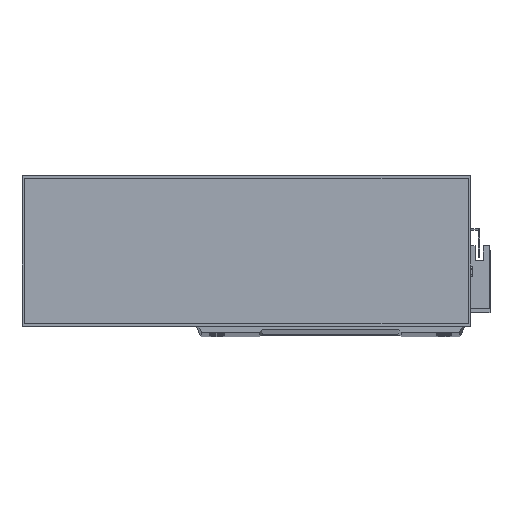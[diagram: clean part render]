
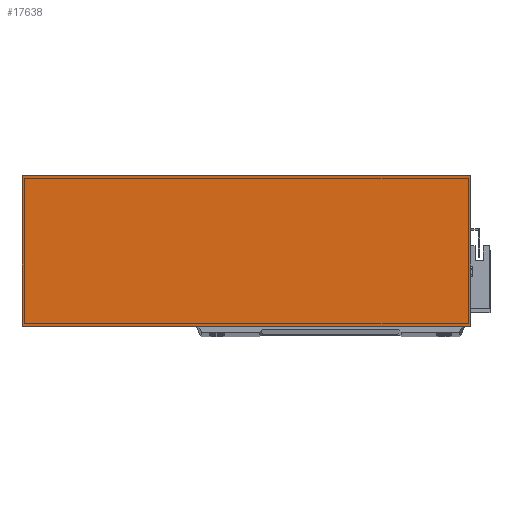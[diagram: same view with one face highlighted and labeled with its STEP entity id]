
A CAD part, top view. The second image highlights one B-rep face of the part: STEP entity #17638.
In plain terms, the highlighted planar face has unit normal (0, 0, 1).
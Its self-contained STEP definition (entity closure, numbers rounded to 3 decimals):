
#289 = CARTESIAN_POINT ( 'NONE',  ( 0., 0., 50. ) ) ;
#715 = DIRECTION ( 'NONE',  ( -1., 0., 0. ) ) ;
#727 = VERTEX_POINT ( 'NONE', #7734 ) ;
#1125 = DIRECTION ( 'NONE',  ( 0., -1., 0. ) ) ;
#2303 = VERTEX_POINT ( 'NONE', #25981 ) ;
#3509 = DIRECTION ( 'NONE',  ( -1., 0., 0. ) ) ;
#3738 = ORIENTED_EDGE ( 'NONE', *, *, #21903, .T. ) ;
#3991 = CARTESIAN_POINT ( 'NONE',  ( 0., 93., 50. ) ) ;
#6584 = LINE ( 'NONE', #10507, #30843 ) ;
#7393 = LINE ( 'NONE', #20100, #13047 ) ;
#7734 = CARTESIAN_POINT ( 'NONE',  ( 0., 0., 50. ) ) ;
#7748 = ORIENTED_EDGE ( 'NONE', *, *, #29233, .T. ) ;
#9606 = EDGE_CURVE ( 'NONE', #12712, #2303, #6584, .T. ) ;
#10507 = CARTESIAN_POINT ( 'NONE',  ( 277., 0., 50. ) ) ;
#11498 = ORIENTED_EDGE ( 'NONE', *, *, #16528, .T. ) ;
#12469 = ORIENTED_EDGE ( 'NONE', *, *, #9606, .T. ) ;
#12712 = VERTEX_POINT ( 'NONE', #12990 ) ;
#12990 = CARTESIAN_POINT ( 'NONE',  ( 277., 0., 50. ) ) ;
#13047 = VECTOR ( 'NONE', #715, 1000. ) ;
#13401 = FACE_OUTER_BOUND ( 'NONE', #22346, .T. ) ;
#15338 = VECTOR ( 'NONE', #1125, 1000. ) ;
#16528 = EDGE_CURVE ( 'NONE', #727, #12712, #28982, .T. ) ;
#16830 = VECTOR ( 'NONE', #26910, 1000. ) ;
#17638 = ADVANCED_FACE ( 'NONE', ( #13401 ), #27704, .F. ) ;
#18018 = DIRECTION ( 'NONE',  ( 0., 0., -1. ) ) ;
#20100 = CARTESIAN_POINT ( 'NONE',  ( 0., 93., 50. ) ) ;
#21809 = LINE ( 'NONE', #25293, #15338 ) ;
#21903 = EDGE_CURVE ( 'NONE', #26579, #727, #21809, .T. ) ;
#22346 = EDGE_LOOP ( 'NONE', ( #3738, #11498, #12469, #7748 ) ) ;
#22815 = CARTESIAN_POINT ( 'NONE',  ( 0., 0., 50. ) ) ;
#25019 = DIRECTION ( 'NONE',  ( 0., 1., 0. ) ) ;
#25293 = CARTESIAN_POINT ( 'NONE',  ( 0., 0., 50. ) ) ;
#25981 = CARTESIAN_POINT ( 'NONE',  ( 277., 93., 50. ) ) ;
#26579 = VERTEX_POINT ( 'NONE', #3991 ) ;
#26910 = DIRECTION ( 'NONE',  ( 1., 0., 0. ) ) ;
#27704 = PLANE ( 'NONE',  #28517 ) ;
#28517 = AXIS2_PLACEMENT_3D ( 'NONE', #22815, #18018, #3509 ) ;
#28982 = LINE ( 'NONE', #289, #16830 ) ;
#29233 = EDGE_CURVE ( 'NONE', #2303, #26579, #7393, .T. ) ;
#30843 = VECTOR ( 'NONE', #25019, 1000. ) ;
